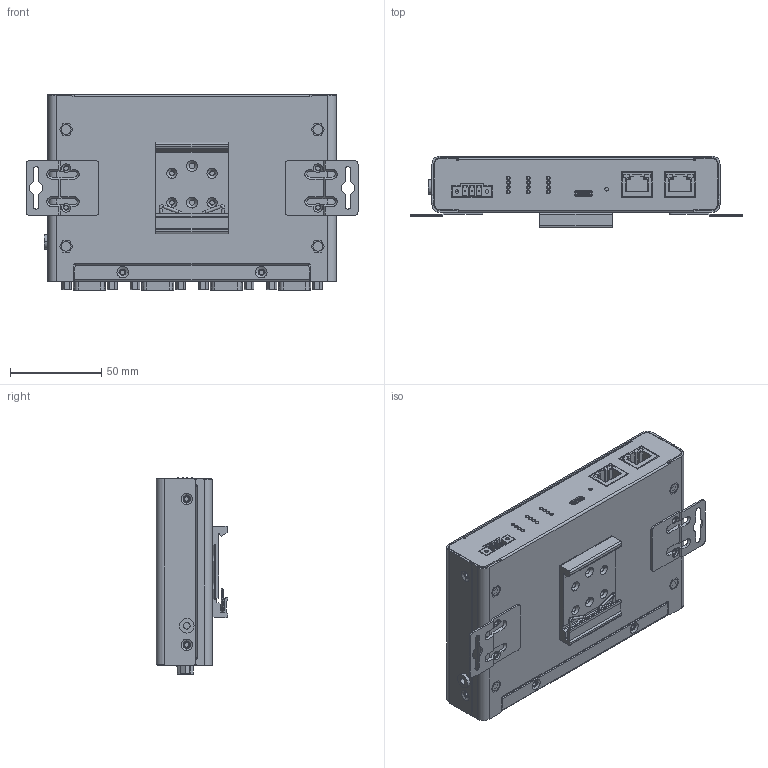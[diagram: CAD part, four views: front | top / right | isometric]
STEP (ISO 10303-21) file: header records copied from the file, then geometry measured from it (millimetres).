
FILE_DESCRIPTION((''),'2;1');
FILE_NAME('00-GCOM40-2NET-P-REV_B_ASM','2026-07-06T15:22:25',('zhouyu1'),(''),'CREO PARAMETRIC BY PTC INC, 2016390','CREO PARAMETRIC BY PTC INC, 2016390','');
FILE_SCHEMA(('AUTOMOTIVE_DESIGN { 1 0 10303 214 1 1 1 1 }'));
Products named in the file (24): 02-PCB; 2ERJRM-3P_4_1; LP-3V0_2018_05_17__4_1; LPH-3V0B_2018_05_17__4_1; LP-3V0F_ASM; TS0631-0951B_4_1; 0062-RJ45_1_1; 20_01_00031; 20_02_00048; 01-PCBA_ASM; 02-LOWER; 03-BSO-M3-7; 03-NUT-M3; 02-LOWER_ASM; 02-UPPER; 03-NUT-M4; 02-UPPER_ASM; 03-DAOGUI-P1; 03-DAOGUI-P2; 03-DAOGUI_ASM; 03-GUAER; 01-MD_ASM; PVC; 00-GCOM40-2NET-P-REV_B_ASM
Assembly tree (47 placements, depth 4):
  00-GCOM40-2NET-P-REV_B_ASM
    01-PCBA_ASM
      02-PCB
      2ERJRM-3P_4_1
      LP-3V0F_ASM  x3
        LP-3V0_2018_05_17__4_1
        LPH-3V0B_2018_05_17__4_1
      TS0631-0951B_4_1
      0062-RJ45_1_1  x2
      20_01_00031  x4
      20_02_00048
    01-MD_ASM
      02-LOWER_ASM
        02-LOWER
        03-BSO-M3-7  x4
        03-NUT-M3  x15
      02-UPPER_ASM
        02-UPPER
        03-NUT-M4
      03-DAOGUI_ASM
        03-DAOGUI-P1
        03-DAOGUI-P2
      03-GUAER  x2
    PVC
Bounding box: 182 x 39.3 x 107.69 mm (x, y, z)
Volume: 113517.9 mm3; surface area: 195210.4 mm2
Topology: 55 solids, 55 shells, 3089 faces, 8116 edges, 5333 vertices
Faces by surface type: plane 1871, cylinder 964, cone 146, bspline 75, sphere 12, extrusion 11, torus 10
Entity records: 74011 total; most frequent: CARTESIAN_POINT 13247, ORIENTED_EDGE 10204, DIRECTION 10186, EDGE_CURVE 5102, VECTOR 3450, LINE 3439, AXIS2_PLACEMENT_3D 3368, VERTEX_POINT 3331
